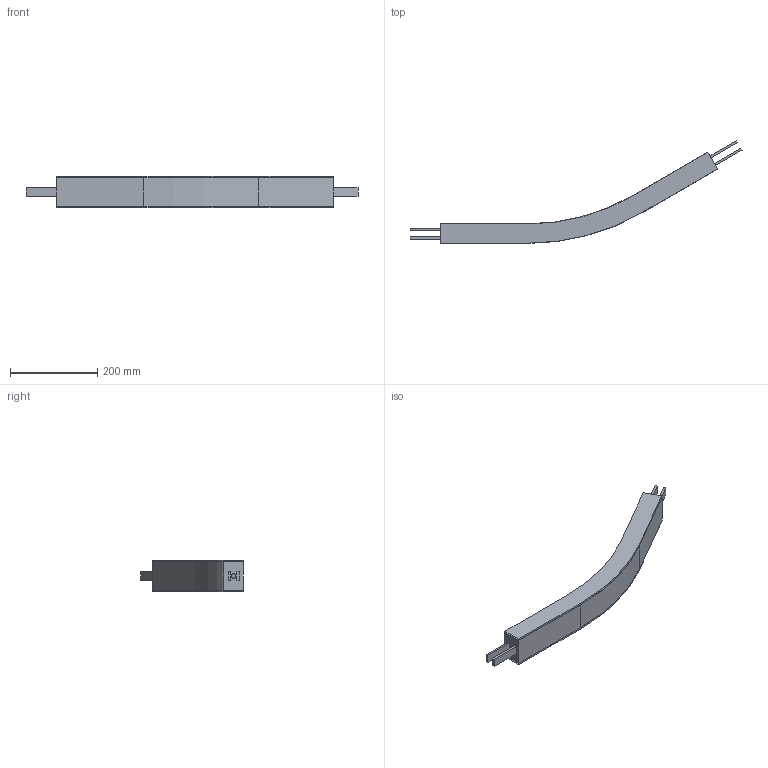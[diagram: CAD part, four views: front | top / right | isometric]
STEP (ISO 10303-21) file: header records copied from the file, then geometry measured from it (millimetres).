
FILE_DESCRIPTION(/* description */ ('Horizontaler Gleitbogen, 30°, R500'),/* implementation_level */ '2;1');
FILE_NAME(/* name */ 'T:\vdz0\Step Daten Website\modulflex FS-System\Horizontale Gleitbögen\FSBP30R500_53804.stp',/* time_stamp */ '2024-08-21T10:12:42+02:00',/* author */ ('lzb0'),/* organization */ ('modular automation GmbH'),/* preprocessor_version */ 'ST-DEVELOPER v18.1',/* originating_system */ 'Autodesk Inventor 2021',/* authorisation */ '');
FILE_SCHEMA (('AUTOMOTIVE_DESIGN { 1 0 10303 214 3 1 1 }'));
Length unit declared in the file: millimetre
Products named in the file (1): FSBP 30R500
Bounding box: 760.2 x 235.53 x 72.2 mm (x, y, z)
Volume: 1967938.4 mm3; surface area: 306808.8 mm2
Topology: 5 solids, 9 shells, 52 faces, 126 edges, 84 vertices
Faces by surface type: plane 44, cylinder 8
Full cylindrical faces by diameter (mm): 10 x2
Entity records: 1596 total; most frequent: CARTESIAN_POINT 270, DIRECTION 250, ORIENTED_EDGE 232, EDGE_CURVE 126, LINE 110, VECTOR 110, VERTEX_POINT 84, AXIS2_PLACEMENT_3D 70
